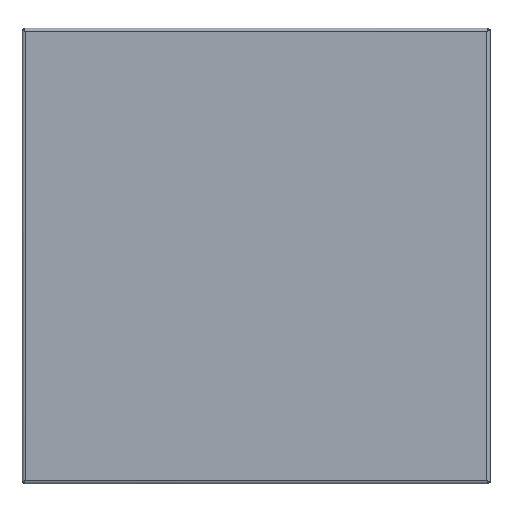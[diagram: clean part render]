
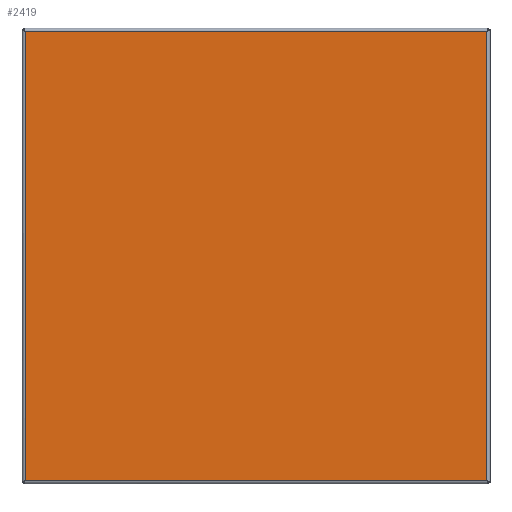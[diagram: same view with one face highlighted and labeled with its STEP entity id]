
A CAD part, front view. The second image highlights one B-rep face of the part: STEP entity #2419.
In plain terms, the highlighted planar face has unit normal (0, -1, 0).
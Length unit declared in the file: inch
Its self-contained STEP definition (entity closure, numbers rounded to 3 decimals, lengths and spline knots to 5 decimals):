
#502=DIRECTION('',(0.,0.,-1.));
#503=VECTOR('',#502,18.562);
#504=CARTESIAN_POINT('',(9.535,0.,9.281));
#505=LINE('',#504,#503);
#534=DIRECTION('',(-1.,0.,0.));
#535=VECTOR('',#534,19.07);
#536=CARTESIAN_POINT('',(9.535,0.,-9.281));
#537=LINE('',#536,#535);
#814=DIRECTION('',(0.,0.,1.));
#815=VECTOR('',#814,18.562);
#816=CARTESIAN_POINT('',(-9.535,0.,-9.281));
#817=LINE('',#816,#815);
#846=DIRECTION('',(1.,0.,0.));
#847=VECTOR('',#846,19.07);
#848=CARTESIAN_POINT('',(-9.535,0.,9.281));
#849=LINE('',#848,#847);
#1210=CARTESIAN_POINT('',(-9.535,0.,9.281));
#1211=CARTESIAN_POINT('',(9.535,0.,9.281));
#1212=VERTEX_POINT('',#1210);
#1213=VERTEX_POINT('',#1211);
#1226=CARTESIAN_POINT('',(9.535,0.,-9.281));
#1227=CARTESIAN_POINT('',(-9.535,0.,-9.281));
#1228=VERTEX_POINT('',#1226);
#1229=VERTEX_POINT('',#1227);
#2405=CARTESIAN_POINT('',(0.,0.,0.));
#2406=DIRECTION('',(0.,-1.,0.));
#2407=DIRECTION('',(-1.,0.,0.));
#2408=AXIS2_PLACEMENT_3D('',#2405,#2406,#2407);
#2409=PLANE('',#2408);
#2410=ORIENTED_EDGE('',*,*,#2399,.T.);
#2412=ORIENTED_EDGE('',*,*,#2411,.T.);
#2414=ORIENTED_EDGE('',*,*,#2413,.T.);
#2416=ORIENTED_EDGE('',*,*,#2415,.T.);
#2417=EDGE_LOOP('',(#2410,#2412,#2414,#2416));
#2418=FACE_OUTER_BOUND('',#2417,.F.);
#2399=EDGE_CURVE('',#1213,#1228,#505,.T.);
#2411=EDGE_CURVE('',#1228,#1229,#537,.T.);
#2413=EDGE_CURVE('',#1229,#1212,#817,.T.);
#2415=EDGE_CURVE('',#1212,#1213,#849,.T.);
#2419=ADVANCED_FACE('',(#2418),#2409,.T.);
